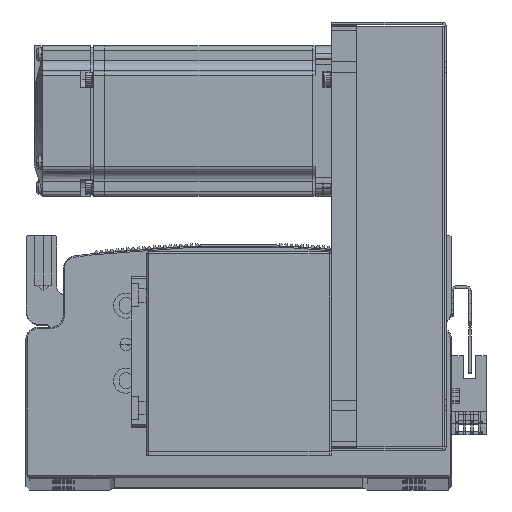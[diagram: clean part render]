
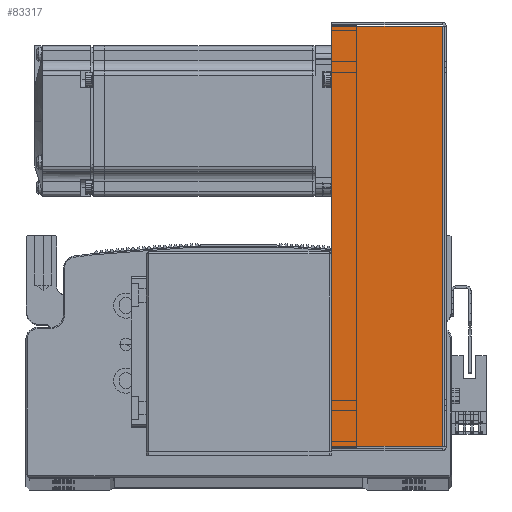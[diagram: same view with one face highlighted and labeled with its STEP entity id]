
A CAD part, top view. The second image highlights one B-rep face of the part: STEP entity #83317.
In plain terms, the highlighted planar face has unit normal (0, 0, 1).
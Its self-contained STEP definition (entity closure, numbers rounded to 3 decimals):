
#5718 = CARTESIAN_POINT ( 'NONE',  ( -83.793, 0.737, 40.5 ) ) ;
#17060 = VERTEX_POINT ( 'NONE', #74507 ) ;
#17066 = VERTEX_POINT ( 'NONE', #5718 ) ;
#17076 = VERTEX_POINT ( 'NONE', #48974 ) ;
#17081 = VERTEX_POINT ( 'NONE', #49025 ) ;
#19339 = EDGE_LOOP ( 'NONE', ( #68733, #69869, #69896, #68752 ) ) ;
#29380 = LINE ( 'NONE', #64767, #29388 ) ;
#29388 = VECTOR ( 'NONE', #64711, 1000. ) ;
#29390 = LINE ( 'NONE', #64675, #29478 ) ;
#29396 = VECTOR ( 'NONE', #64656, 1000. ) ;
#29412 = LINE ( 'NONE', #64645, #29396 ) ;
#29478 = VECTOR ( 'NONE', #64680, 1000. ) ;
#29558 = VECTOR ( 'NONE', #64990, 1000. ) ;
#29580 = LINE ( 'NONE', #64997, #29558 ) ;
#47869 = DIRECTION ( 'NONE',  ( -1., 0., 0. ) ) ;
#47891 = PLANE ( 'NONE',  #90878 ) ;
#47900 = CARTESIAN_POINT ( 'NONE',  ( 0., 0., 40.5 ) ) ;
#47905 = DIRECTION ( 'NONE',  ( 0., 0., -1. ) ) ;
#48974 = CARTESIAN_POINT ( 'NONE',  ( 83.793, 45., 40.5 ) ) ;
#49025 = CARTESIAN_POINT ( 'NONE',  ( -83.793, 45., 40.5 ) ) ;
#51407 = EDGE_CURVE ( 'NONE', #17060, #17066, #29412, .T. ) ;
#51437 = EDGE_CURVE ( 'NONE', #17076, #17081, #29380, .T. ) ;
#51440 = EDGE_CURVE ( 'NONE', #17066, #17081, #29390, .T. ) ;
#51502 = EDGE_CURVE ( 'NONE', #17060, #17076, #29580, .T. ) ;
#52307 = FACE_OUTER_BOUND ( 'NONE', #19339, .T. ) ;
#64645 = CARTESIAN_POINT ( 'NONE',  ( 0., 0.737, 40.5 ) ) ;
#64656 = DIRECTION ( 'NONE',  ( -1., 0., 0. ) ) ;
#64675 = CARTESIAN_POINT ( 'NONE',  ( -83.793, 0., 40.5 ) ) ;
#64680 = DIRECTION ( 'NONE',  ( 0., 1., 0. ) ) ;
#64711 = DIRECTION ( 'NONE',  ( -1., 0., 0. ) ) ;
#64767 = CARTESIAN_POINT ( 'NONE',  ( -84.5, 45., 40.5 ) ) ;
#64990 = DIRECTION ( 'NONE',  ( 0., 1., 0. ) ) ;
#64997 = CARTESIAN_POINT ( 'NONE',  ( 83.793, 0., 40.5 ) ) ;
#68733 = ORIENTED_EDGE ( 'NONE', *, *, #51407, .F. ) ;
#68752 = ORIENTED_EDGE ( 'NONE', *, *, #51440, .F. ) ;
#69869 = ORIENTED_EDGE ( 'NONE', *, *, #51502, .T. ) ;
#69896 = ORIENTED_EDGE ( 'NONE', *, *, #51437, .T. ) ;
#74507 = CARTESIAN_POINT ( 'NONE',  ( 83.793, 0.737, 40.5 ) ) ;
#83317 = ADVANCED_FACE ( 'NONE', ( #52307 ), #47891, .F. ) ;
#90878 = AXIS2_PLACEMENT_3D ( 'NONE', #47900, #47905, #47869 ) ;
